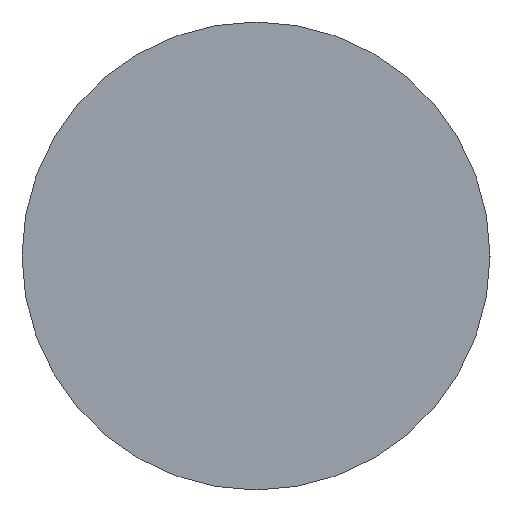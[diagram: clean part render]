
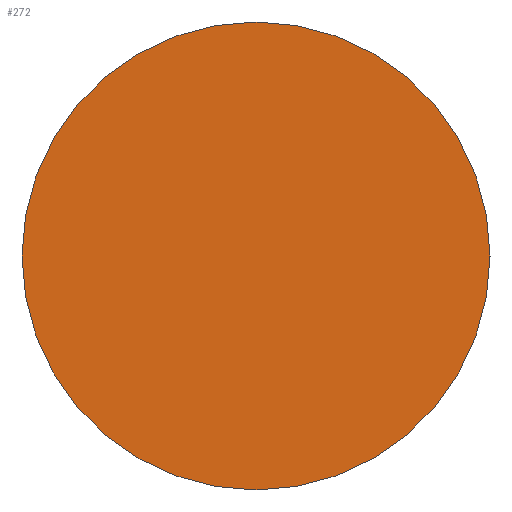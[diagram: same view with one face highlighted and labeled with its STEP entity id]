
A CAD part, left-side view. The second image highlights one B-rep face of the part: STEP entity #272.
In plain terms, the highlighted planar face has unit normal (-1, 0, 0).
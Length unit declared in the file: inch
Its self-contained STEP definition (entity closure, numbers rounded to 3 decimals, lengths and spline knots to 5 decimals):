
#21 = CARTESIAN_POINT ( 'NONE',  ( -4., 0., -0.375 ) ) ;
#22 = CARTESIAN_POINT ( 'NONE',  ( -4., 0., 0. ) ) ;
#23 = AXIS2_PLACEMENT_3D ( 'NONE', #223, #386, #424 ) ;
#108 = FACE_OUTER_BOUND ( 'NONE', #469, .T. ) ;
#181 = PLANE ( 'NONE',  #372 ) ;
#211 = ORIENTED_EDGE ( 'NONE', *, *, #287, .T. ) ;
#223 = CARTESIAN_POINT ( 'NONE',  ( -4., 0., 0. ) ) ;
#230 = DIRECTION ( 'NONE',  ( 0., 0., 1. ) ) ;
#272 = ADVANCED_FACE ( 'NONE', ( #108 ), #181, .F. ) ;
#276 = CARTESIAN_POINT ( 'NONE',  ( -4., 0., 0.375 ) ) ;
#277 = DIRECTION ( 'NONE',  ( 0., 0., -1. ) ) ;
#287 = EDGE_CURVE ( 'NONE', #482, #505, #347, .T. ) ;
#294 = ORIENTED_EDGE ( 'NONE', *, *, #374, .T. ) ;
#317 = CARTESIAN_POINT ( 'NONE',  ( -4., 0.375, 0. ) ) ;
#346 = DIRECTION ( 'NONE',  ( 1., 0., 0. ) ) ;
#347 = CIRCLE ( 'NONE', #397, 0.375 ) ;
#372 = AXIS2_PLACEMENT_3D ( 'NONE', #317, #346, #277 ) ;
#374 = EDGE_CURVE ( 'NONE', #505, #482, #470, .T. ) ;
#386 = DIRECTION ( 'NONE',  ( -1., 0., 0. ) ) ;
#397 = AXIS2_PLACEMENT_3D ( 'NONE', #22, #428, #230 ) ;
#424 = DIRECTION ( 'NONE',  ( 0., 0., 1. ) ) ;
#428 = DIRECTION ( 'NONE',  ( -1., 0., 0. ) ) ;
#469 = EDGE_LOOP ( 'NONE', ( #211, #294 ) ) ;
#470 = CIRCLE ( 'NONE', #23, 0.375 ) ;
#482 = VERTEX_POINT ( 'NONE', #276 ) ;
#505 = VERTEX_POINT ( 'NONE', #21 ) ;
